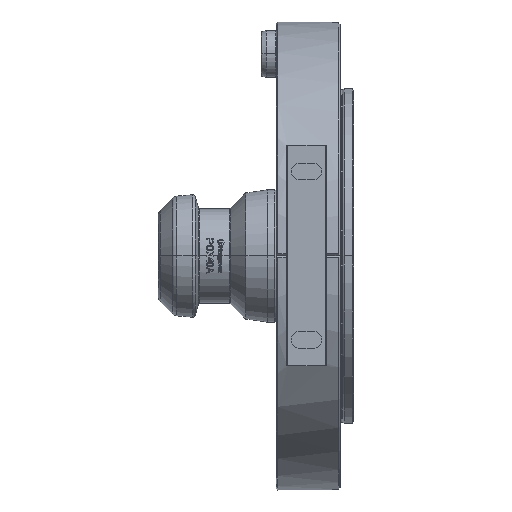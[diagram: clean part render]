
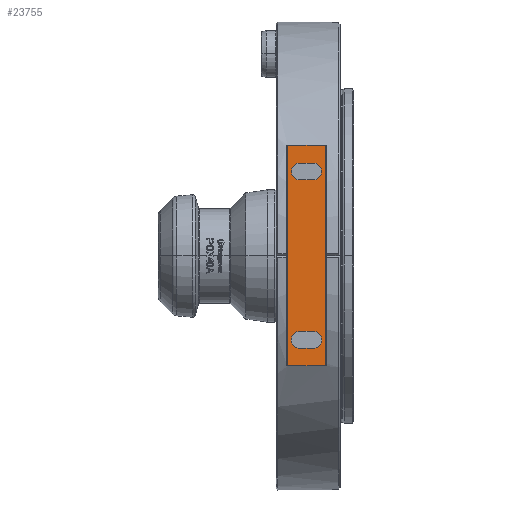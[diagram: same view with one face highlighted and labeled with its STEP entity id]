
A CAD part, top view. The second image highlights one B-rep face of the part: STEP entity #23755.
In plain terms, the highlighted planar face has unit normal (0, 0, 1).
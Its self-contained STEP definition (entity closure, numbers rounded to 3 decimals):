
#286 = ORIENTED_EDGE ( 'NONE', *, *, #10695, .F. ) ;
#695 = CIRCLE ( 'NONE', #2675, 2.5 ) ;
#862 = CIRCLE ( 'NONE', #18291, 2.5 ) ;
#1057 = CIRCLE ( 'NONE', #24055, 2.5 ) ;
#1176 = DIRECTION ( 'NONE',  ( 1., 0., 0. ) ) ;
#1338 = CARTESIAN_POINT ( 'NONE',  ( 11., -27.5, 61.3 ) ) ;
#1642 = ORIENTED_EDGE ( 'NONE', *, *, #16423, .F. ) ;
#1773 = VERTEX_POINT ( 'NONE', #16369 ) ;
#1918 = VERTEX_POINT ( 'NONE', #13518 ) ;
#1987 = AXIS2_PLACEMENT_3D ( 'NONE', #21246, #6311, #21120 ) ;
#2335 = CARTESIAN_POINT ( 'NONE',  ( 3.4, -69.5, 61.3 ) ) ;
#2475 = CARTESIAN_POINT ( 'NONE',  ( 14.6, 32.75, 61.3 ) ) ;
#2544 = ORIENTED_EDGE ( 'NONE', *, *, #22544, .F. ) ;
#2610 = DIRECTION ( 'NONE',  ( -1., 0., 0. ) ) ;
#2675 = AXIS2_PLACEMENT_3D ( 'NONE', #6195, #23353, #2610 ) ;
#2983 = AXIS2_PLACEMENT_3D ( 'NONE', #16459, #20695, #7021 ) ;
#3174 = ORIENTED_EDGE ( 'NONE', *, *, #19750, .F. ) ;
#3237 = CARTESIAN_POINT ( 'NONE',  ( 7., 22.5, 61.3 ) ) ;
#3321 = VERTEX_POINT ( 'NONE', #6085 ) ;
#3739 = CARTESIAN_POINT ( 'NONE',  ( 14.6, -32.75, 61.3 ) ) ;
#4269 = VECTOR ( 'NONE', #14773, 1000. ) ;
#4424 = EDGE_LOOP ( 'NONE', ( #14475, #16442, #10740, #3174, #20921 ) ) ;
#4552 = CIRCLE ( 'NONE', #2983, 2.5 ) ;
#4900 = DIRECTION ( 'NONE',  ( 1., 0., 0. ) ) ;
#5148 = VERTEX_POINT ( 'NONE', #14286 ) ;
#5164 = EDGE_CURVE ( 'NONE', #5148, #20158, #695, .T. ) ;
#5200 = CARTESIAN_POINT ( 'NONE',  ( 13.5, 25., 61.3 ) ) ;
#5214 = EDGE_CURVE ( 'NONE', #13176, #14045, #23829, .T. ) ;
#5283 = VERTEX_POINT ( 'NONE', #5200 ) ;
#5730 = VECTOR ( 'NONE', #17595, 1000. ) ;
#5741 = CARTESIAN_POINT ( 'NONE',  ( 7., 22.5, 61.3 ) ) ;
#6085 = CARTESIAN_POINT ( 'NONE',  ( 3.4, 32.75, 61.3 ) ) ;
#6195 = CARTESIAN_POINT ( 'NONE',  ( 7., -25., 61.3 ) ) ;
#6311 = DIRECTION ( 'NONE',  ( 0., 0., -1. ) ) ;
#6527 = CARTESIAN_POINT ( 'NONE',  ( 7., -27.5, 61.3 ) ) ;
#6863 = EDGE_LOOP ( 'NONE', ( #286, #11325, #2544, #23887, #9322 ) ) ;
#7021 = DIRECTION ( 'NONE',  ( -1., 0., 0. ) ) ;
#7415 = EDGE_CURVE ( 'NONE', #3321, #14045, #16067, .T. ) ;
#7870 = CARTESIAN_POINT ( 'NONE',  ( 7., 27.5, 61.3 ) ) ;
#8314 = FACE_BOUND ( 'NONE', #4424, .T. ) ;
#8596 = CARTESIAN_POINT ( 'NONE',  ( -13.67, 32.75, 61.3 ) ) ;
#8792 = CARTESIAN_POINT ( 'NONE',  ( -13.67, -32.75, 61.3 ) ) ;
#8820 = CIRCLE ( 'NONE', #19144, 2.5 ) ;
#8942 = VECTOR ( 'NONE', #21050, 1000. ) ;
#9101 = VECTOR ( 'NONE', #12656, 1000. ) ;
#9322 = ORIENTED_EDGE ( 'NONE', *, *, #17214, .F. ) ;
#9640 = CARTESIAN_POINT ( 'NONE',  ( 11., -22.5, 61.3 ) ) ;
#9671 = DIRECTION ( 'NONE',  ( 0., 0., 1. ) ) ;
#9970 = LINE ( 'NONE', #10082, #11414 ) ;
#10082 = CARTESIAN_POINT ( 'NONE',  ( 7., -22.5, 61.3 ) ) ;
#10498 = ORIENTED_EDGE ( 'NONE', *, *, #22978, .F. ) ;
#10695 = EDGE_CURVE ( 'NONE', #20158, #20233, #24157, .T. ) ;
#10740 = ORIENTED_EDGE ( 'NONE', *, *, #19463, .F. ) ;
#11325 = ORIENTED_EDGE ( 'NONE', *, *, #5164, .F. ) ;
#11414 = VECTOR ( 'NONE', #17638, 1000. ) ;
#11695 = DIRECTION ( 'NONE',  ( 0., 0., 1. ) ) ;
#12077 = CARTESIAN_POINT ( 'NONE',  ( 7., 25., 61.3 ) ) ;
#12206 = DIRECTION ( 'NONE',  ( 1., 0., 0. ) ) ;
#12217 = EDGE_CURVE ( 'NONE', #1918, #14674, #862, .T. ) ;
#12552 = AXIS2_PLACEMENT_3D ( 'NONE', #21136, #11695, #23239 ) ;
#12656 = DIRECTION ( 'NONE',  ( -1., 0., 0. ) ) ;
#12678 = LINE ( 'NONE', #3237, #5730 ) ;
#13151 = CARTESIAN_POINT ( 'NONE',  ( 11., -25., 61.3 ) ) ;
#13176 = VERTEX_POINT ( 'NONE', #3739 ) ;
#13508 = DIRECTION ( 'NONE',  ( 0., 1., 0. ) ) ;
#13518 = CARTESIAN_POINT ( 'NONE',  ( 13.5, -25., 61.3 ) ) ;
#13543 = FACE_BOUND ( 'NONE', #6863, .T. ) ;
#13551 = VERTEX_POINT ( 'NONE', #16497 ) ;
#13627 = LINE ( 'NONE', #2335, #23591 ) ;
#13690 = ORIENTED_EDGE ( 'NONE', *, *, #7415, .F. ) ;
#13918 = PLANE ( 'NONE',  #1987 ) ;
#14045 = VERTEX_POINT ( 'NONE', #2475 ) ;
#14286 = CARTESIAN_POINT ( 'NONE',  ( 7., -22.5, 61.3 ) ) ;
#14475 = ORIENTED_EDGE ( 'NONE', *, *, #17325, .F. ) ;
#14674 = VERTEX_POINT ( 'NONE', #9640 ) ;
#14693 = CARTESIAN_POINT ( 'NONE',  ( 11., 25., 61.3 ) ) ;
#14773 = DIRECTION ( 'NONE',  ( 0., 1., 0. ) ) ;
#14850 = EDGE_LOOP ( 'NONE', ( #19274, #13690, #1642, #10498 ) ) ;
#14970 = VERTEX_POINT ( 'NONE', #5741 ) ;
#15005 = VECTOR ( 'NONE', #1176, 1000. ) ;
#15064 = EDGE_CURVE ( 'NONE', #13551, #14970, #8820, .T. ) ;
#15133 = DIRECTION ( 'NONE',  ( -1., 0., 0. ) ) ;
#15839 = VERTEX_POINT ( 'NONE', #16036 ) ;
#15900 = VECTOR ( 'NONE', #4900, 1000. ) ;
#16036 = CARTESIAN_POINT ( 'NONE',  ( 3.4, -32.75, 61.3 ) ) ;
#16067 = LINE ( 'NONE', #8596, #15005 ) ;
#16133 = LINE ( 'NONE', #8792, #9101 ) ;
#16369 = CARTESIAN_POINT ( 'NONE',  ( 11., 22.5, 61.3 ) ) ;
#16423 = EDGE_CURVE ( 'NONE', #15839, #3321, #13627, .T. ) ;
#16442 = ORIENTED_EDGE ( 'NONE', *, *, #15064, .F. ) ;
#16455 = CARTESIAN_POINT ( 'NONE',  ( 7., -27.5, 61.3 ) ) ;
#16459 = CARTESIAN_POINT ( 'NONE',  ( 11., -25., 61.3 ) ) ;
#16497 = CARTESIAN_POINT ( 'NONE',  ( 7., 27.5, 61.3 ) ) ;
#17214 = EDGE_CURVE ( 'NONE', #20233, #1918, #4552, .T. ) ;
#17254 = FACE_OUTER_BOUND ( 'NONE', #14850, .T. ) ;
#17325 = EDGE_CURVE ( 'NONE', #14970, #1773, #12678, .T. ) ;
#17595 = DIRECTION ( 'NONE',  ( 1., 0., 0. ) ) ;
#17638 = DIRECTION ( 'NONE',  ( -1., 0., 0. ) ) ;
#18291 = AXIS2_PLACEMENT_3D ( 'NONE', #13151, #9671, #15133 ) ;
#19144 = AXIS2_PLACEMENT_3D ( 'NONE', #12077, #21527, #12206 ) ;
#19274 = ORIENTED_EDGE ( 'NONE', *, *, #5214, .T. ) ;
#19463 = EDGE_CURVE ( 'NONE', #21886, #13551, #22782, .T. ) ;
#19750 = EDGE_CURVE ( 'NONE', #5283, #21886, #1057, .T. ) ;
#19900 = EDGE_CURVE ( 'NONE', #1773, #5283, #20480, .T. ) ;
#20158 = VERTEX_POINT ( 'NONE', #6527 ) ;
#20233 = VERTEX_POINT ( 'NONE', #1338 ) ;
#20480 = CIRCLE ( 'NONE', #12552, 2.5 ) ;
#20488 = CARTESIAN_POINT ( 'NONE',  ( 14.6, -69.5, 61.3 ) ) ;
#20695 = DIRECTION ( 'NONE',  ( 0., 0., 1. ) ) ;
#20921 = ORIENTED_EDGE ( 'NONE', *, *, #19900, .F. ) ;
#21050 = DIRECTION ( 'NONE',  ( -1., 0., 0. ) ) ;
#21120 = DIRECTION ( 'NONE',  ( -1., 0., 0. ) ) ;
#21136 = CARTESIAN_POINT ( 'NONE',  ( 11., 25., 61.3 ) ) ;
#21246 = CARTESIAN_POINT ( 'NONE',  ( 3.4, -69.5, 61.3 ) ) ;
#21527 = DIRECTION ( 'NONE',  ( 0., 0., 1. ) ) ;
#21886 = VERTEX_POINT ( 'NONE', #22900 ) ;
#22544 = EDGE_CURVE ( 'NONE', #14674, #5148, #9970, .T. ) ;
#22633 = DIRECTION ( 'NONE',  ( 1., 0., 0. ) ) ;
#22782 = LINE ( 'NONE', #7870, #8942 ) ;
#22900 = CARTESIAN_POINT ( 'NONE',  ( 11., 27.5, 61.3 ) ) ;
#22978 = EDGE_CURVE ( 'NONE', #13176, #15839, #16133, .T. ) ;
#23239 = DIRECTION ( 'NONE',  ( 1., 0., 0. ) ) ;
#23353 = DIRECTION ( 'NONE',  ( 0., 0., 1. ) ) ;
#23591 = VECTOR ( 'NONE', #13508, 1000. ) ;
#23755 = ADVANCED_FACE ( 'NONE', ( #8314, #13543, #17254 ), #13918, .F. ) ;
#23829 = LINE ( 'NONE', #20488, #4269 ) ;
#23887 = ORIENTED_EDGE ( 'NONE', *, *, #12217, .F. ) ;
#24055 = AXIS2_PLACEMENT_3D ( 'NONE', #14693, #24120, #22633 ) ;
#24120 = DIRECTION ( 'NONE',  ( 0., 0., 1. ) ) ;
#24157 = LINE ( 'NONE', #16455, #15900 ) ;
